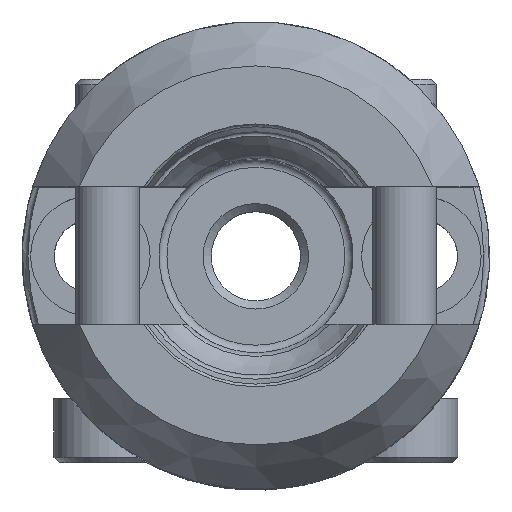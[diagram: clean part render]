
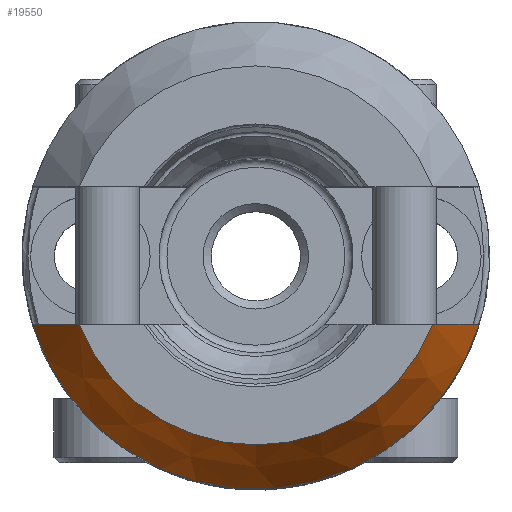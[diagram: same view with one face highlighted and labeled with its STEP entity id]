
A CAD part, top view. The second image highlights one B-rep face of the part: STEP entity #19550.
In plain terms, the highlighted conical face has half-angle 30 degrees and reference radius 19.881 mm.
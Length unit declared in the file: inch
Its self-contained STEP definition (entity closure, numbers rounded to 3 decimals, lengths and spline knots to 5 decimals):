
#35=(
BOUNDED_CURVE()
B_SPLINE_CURVE(2,(#45533,#45534,#45535),.UNSPECIFIED.,.F.,.F.)
B_SPLINE_CURVE_WITH_KNOTS((3,3),(0.,0.84321),.UNSPECIFIED.)
CURVE()
GEOMETRIC_REPRESENTATION_ITEM()
RATIONAL_B_SPLINE_CURVE((1.,1.006,1.))
REPRESENTATION_ITEM('')
);
#36=(
BOUNDED_CURVE()
B_SPLINE_CURVE(2,(#45600,#45601,#45602),.UNSPECIFIED.,.F.,.F.)
B_SPLINE_CURVE_WITH_KNOTS((3,3),(0.,0.84321),.UNSPECIFIED.)
CURVE()
GEOMETRIC_REPRESENTATION_ITEM()
RATIONAL_B_SPLINE_CURVE((1.,1.006,1.))
REPRESENTATION_ITEM('')
);
#42=CONICAL_SURFACE('',#20807,0.78272,30.);
#2184=FACE_OUTER_BOUND('',#3383,.T.);
#3383=EDGE_LOOP('',(#18160,#18161,#18162,#18163));
#6710=CIRCLE('',#20729,0.8645);
#6751=CIRCLE('',#20808,0.70094);
#9522=VERTEX_POINT('',#45458);
#9523=VERTEX_POINT('',#45460);
#9529=VERTEX_POINT('',#45532);
#9555=VERTEX_POINT('',#45598);
#12379=EDGE_CURVE('',#9523,#9522,#6710,.T.);
#12391=EDGE_CURVE('',#9529,#9523,#35,.T.);
#12419=EDGE_CURVE('',#9522,#9555,#36,.T.);
#12469=EDGE_CURVE('',#9555,#9529,#6751,.T.);
#18160=ORIENTED_EDGE('',*,*,#12419,.T.);
#18161=ORIENTED_EDGE('',*,*,#12469,.T.);
#18162=ORIENTED_EDGE('',*,*,#12391,.T.);
#18163=ORIENTED_EDGE('',*,*,#12379,.T.);
#19550=ADVANCED_FACE('',(#2184),#42,.T.);
#20729=AXIS2_PLACEMENT_3D('',#45461,#24378,#24379);
#20807=AXIS2_PLACEMENT_3D('',#45727,#24561,#24562);
#20808=AXIS2_PLACEMENT_3D('',#45728,#24563,#24564);
#24378=DIRECTION('center_axis',(0.,0.,1.));
#24379=DIRECTION('ref_axis',(-1.,0.,0.));
#24561=DIRECTION('center_axis',(0.,0.,-1.));
#24562=DIRECTION('ref_axis',(-1.,0.,0.));
#24563=DIRECTION('center_axis',(0.,0.,-1.));
#24564=DIRECTION('ref_axis',(-1.,0.,0.));
#45458=CARTESIAN_POINT('',(0.17101,0.14473,1.9047));
#45460=CARTESIAN_POINT('',(-1.48167,0.14473,1.9047));
#45461=CARTESIAN_POINT('Origin',(-0.65533,0.39873,1.9047));
#45532=CARTESIAN_POINT('',(-1.30863,0.14473,2.188));
#45533=CARTESIAN_POINT('Ctrl Pts',(-1.30863,0.14473,
2.188));
#45534=CARTESIAN_POINT('Ctrl Pts',(-1.38611,0.14473,
2.06292));
#45535=CARTESIAN_POINT('Ctrl Pts',(-1.48167,0.14473,
1.9047));
#45598=CARTESIAN_POINT('',(-0.00203,0.14473,2.188));
#45600=CARTESIAN_POINT('Ctrl Pts',(0.17101,0.14473,
1.9047));
#45601=CARTESIAN_POINT('Ctrl Pts',(0.07545,0.14473,
2.06292));
#45602=CARTESIAN_POINT('Ctrl Pts',(-0.00203,0.14473,
2.188));
#45727=CARTESIAN_POINT('Origin',(-0.65533,0.39873,2.04635));
#45728=CARTESIAN_POINT('Origin',(-0.65533,0.39873,2.188));
